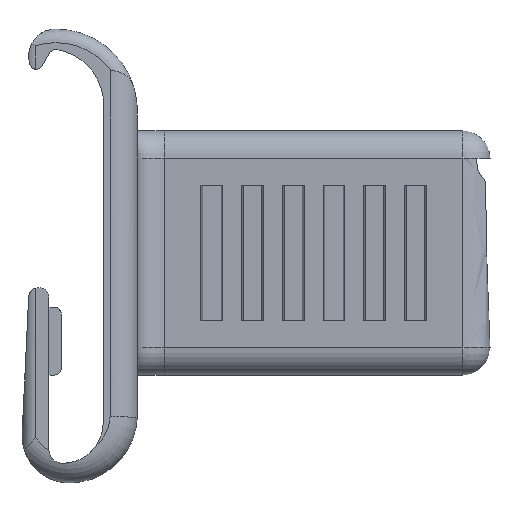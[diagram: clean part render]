
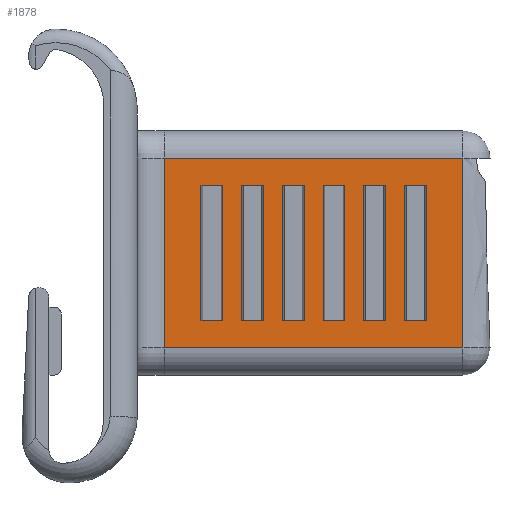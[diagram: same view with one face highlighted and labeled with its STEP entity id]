
A CAD part, left-side view. The second image highlights one B-rep face of the part: STEP entity #1878.
In plain terms, the highlighted planar face has unit normal (-1, 0, 0).
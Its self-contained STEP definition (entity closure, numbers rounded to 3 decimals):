
#1072=CARTESIAN_POINT('',(340.48,195.265,-2.0));
#1073=VERTEX_POINT('',#1072);
#1125=CARTESIAN_POINT('',(340.48,195.265,12.));
#1126=VERTEX_POINT('',#1125);
#1134=CARTESIAN_POINT('',(340.48,195.265,12.));
#1135=DIRECTION('',(0.0,0.0,-1.0));
#1136=VECTOR('',#1135,14.);
#1137=LINE('',#1134,#1136);
#1138=EDGE_CURVE('',#1126,#1073,#1137,.T.);
#1409=CARTESIAN_POINT('',(340.48,217.261,-2.0));
#1410=VERTEX_POINT('',#1409);
#1411=CARTESIAN_POINT('',(340.48,195.265,-2.0));
#1412=DIRECTION('',(0.0,1.0,0.0));
#1413=VECTOR('',#1412,21.996);
#1414=LINE('',#1411,#1413);
#1415=EDGE_CURVE('',#1073,#1410,#1414,.T.);
#1632=CARTESIAN_POINT('',(340.48,217.261,12.));
#1633=VERTEX_POINT('',#1632);
#1634=CARTESIAN_POINT('',(340.48,217.261,-2.0));
#1635=DIRECTION('',(0.0,0.0,1.0));
#1636=VECTOR('',#1635,14.);
#1637=LINE('',#1634,#1636);
#1638=EDGE_CURVE('',#1410,#1633,#1637,.T.);
#1658=CARTESIAN_POINT('',(340.48,214.565,0.0));
#1659=DIRECTION('',(-1.0,0.0,0.0));
#1660=DIRECTION('',(0.0,0.0,1.0));
#1661=AXIS2_PLACEMENT_3D('',#1658,#1659,#1660);
#1662=PLANE('',#1661);
#1663=ORIENTED_EDGE('',*,*,#1138,.F.);
#1664=CARTESIAN_POINT('',(340.48,217.261,12.));
#1665=DIRECTION('',(0.0,-1.0,0.0));
#1666=VECTOR('',#1665,21.996);
#1667=LINE('',#1664,#1666);
#1668=EDGE_CURVE('',#1633,#1126,#1667,.T.);
#1669=ORIENTED_EDGE('',*,*,#1668,.F.);
#1670=ORIENTED_EDGE('',*,*,#1638,.F.);
#1671=ORIENTED_EDGE('',*,*,#1415,.F.);
#1672=EDGE_LOOP('',(#1663,#1669,#1670,#1671));
#1673=FACE_OUTER_BOUND('',#1672,.T.);
#1674=CARTESIAN_POINT('',(340.48,214.565,0.0));
#1675=VERTEX_POINT('',#1674);
#1676=CARTESIAN_POINT('',(340.48,214.565,10.0));
#1677=VERTEX_POINT('',#1676);
#1678=CARTESIAN_POINT('',(340.48,214.565,0.0));
#1679=DIRECTION('',(0.0,0.0,1.0));
#1680=VECTOR('',#1679,10.0);
#1681=LINE('',#1678,#1680);
#1682=EDGE_CURVE('',#1675,#1677,#1681,.T.);
#1683=ORIENTED_EDGE('',*,*,#1682,.T.);
#1684=CARTESIAN_POINT('',(340.48,212.965,10.0));
#1685=VERTEX_POINT('',#1684);
#1686=CARTESIAN_POINT('',(340.48,214.565,10.0));
#1687=DIRECTION('',(0.0,-1.0,0.0));
#1688=VECTOR('',#1687,1.6);
#1689=LINE('',#1686,#1688);
#1690=EDGE_CURVE('',#1677,#1685,#1689,.T.);
#1691=ORIENTED_EDGE('',*,*,#1690,.T.);
#1692=CARTESIAN_POINT('',(340.48,212.965,0.0));
#1693=VERTEX_POINT('',#1692);
#1694=CARTESIAN_POINT('',(340.48,212.965,0.0));
#1695=DIRECTION('',(0.0,0.0,1.0));
#1696=VECTOR('',#1695,10.0);
#1697=LINE('',#1694,#1696);
#1698=EDGE_CURVE('',#1693,#1685,#1697,.T.);
#1699=ORIENTED_EDGE('',*,*,#1698,.F.);
#1700=CARTESIAN_POINT('',(340.48,212.965,0.0));
#1701=DIRECTION('',(0.0,1.0,0.0));
#1702=VECTOR('',#1701,1.6);
#1703=LINE('',#1700,#1702);
#1704=EDGE_CURVE('',#1693,#1675,#1703,.T.);
#1705=ORIENTED_EDGE('',*,*,#1704,.T.);
#1706=EDGE_LOOP('',(#1683,#1691,#1699,#1705));
#1707=FACE_BOUND('',#1706,.T.);
#1708=CARTESIAN_POINT('',(340.48,211.565,0.0));
#1709=VERTEX_POINT('',#1708);
#1710=CARTESIAN_POINT('',(340.48,211.565,10.0));
#1711=VERTEX_POINT('',#1710);
#1712=CARTESIAN_POINT('',(340.48,211.565,0.0));
#1713=DIRECTION('',(0.0,0.0,1.0));
#1714=VECTOR('',#1713,10.0);
#1715=LINE('',#1712,#1714);
#1716=EDGE_CURVE('',#1709,#1711,#1715,.T.);
#1717=ORIENTED_EDGE('',*,*,#1716,.T.);
#1718=CARTESIAN_POINT('',(340.48,209.965,10.0));
#1719=VERTEX_POINT('',#1718);
#1720=CARTESIAN_POINT('',(340.48,211.565,10.0));
#1721=DIRECTION('',(0.0,-1.0,0.0));
#1722=VECTOR('',#1721,1.6);
#1723=LINE('',#1720,#1722);
#1724=EDGE_CURVE('',#1711,#1719,#1723,.T.);
#1725=ORIENTED_EDGE('',*,*,#1724,.T.);
#1726=CARTESIAN_POINT('',(340.48,209.965,0.0));
#1727=VERTEX_POINT('',#1726);
#1728=CARTESIAN_POINT('',(340.48,209.965,0.0));
#1729=DIRECTION('',(0.0,0.0,1.0));
#1730=VECTOR('',#1729,10.0);
#1731=LINE('',#1728,#1730);
#1732=EDGE_CURVE('',#1727,#1719,#1731,.T.);
#1733=ORIENTED_EDGE('',*,*,#1732,.F.);
#1734=CARTESIAN_POINT('',(340.48,209.965,0.0));
#1735=DIRECTION('',(0.0,1.0,0.0));
#1736=VECTOR('',#1735,1.6);
#1737=LINE('',#1734,#1736);
#1738=EDGE_CURVE('',#1727,#1709,#1737,.T.);
#1739=ORIENTED_EDGE('',*,*,#1738,.T.);
#1740=EDGE_LOOP('',(#1717,#1725,#1733,#1739));
#1741=FACE_BOUND('',#1740,.T.);
#1742=CARTESIAN_POINT('',(340.48,208.565,0.0));
#1743=VERTEX_POINT('',#1742);
#1744=CARTESIAN_POINT('',(340.48,208.565,10.0));
#1745=VERTEX_POINT('',#1744);
#1746=CARTESIAN_POINT('',(340.48,208.565,0.0));
#1747=DIRECTION('',(0.0,0.0,1.0));
#1748=VECTOR('',#1747,10.0);
#1749=LINE('',#1746,#1748);
#1750=EDGE_CURVE('',#1743,#1745,#1749,.T.);
#1751=ORIENTED_EDGE('',*,*,#1750,.T.);
#1752=CARTESIAN_POINT('',(340.48,206.965,10.0));
#1753=VERTEX_POINT('',#1752);
#1754=CARTESIAN_POINT('',(340.48,208.565,10.0));
#1755=DIRECTION('',(0.0,-1.0,0.0));
#1756=VECTOR('',#1755,1.6);
#1757=LINE('',#1754,#1756);
#1758=EDGE_CURVE('',#1745,#1753,#1757,.T.);
#1759=ORIENTED_EDGE('',*,*,#1758,.T.);
#1760=CARTESIAN_POINT('',(340.48,206.965,0.0));
#1761=VERTEX_POINT('',#1760);
#1762=CARTESIAN_POINT('',(340.48,206.965,0.0));
#1763=DIRECTION('',(0.0,0.0,1.0));
#1764=VECTOR('',#1763,10.0);
#1765=LINE('',#1762,#1764);
#1766=EDGE_CURVE('',#1761,#1753,#1765,.T.);
#1767=ORIENTED_EDGE('',*,*,#1766,.F.);
#1768=CARTESIAN_POINT('',(340.48,206.965,0.0));
#1769=DIRECTION('',(0.0,1.0,0.0));
#1770=VECTOR('',#1769,1.6);
#1771=LINE('',#1768,#1770);
#1772=EDGE_CURVE('',#1761,#1743,#1771,.T.);
#1773=ORIENTED_EDGE('',*,*,#1772,.T.);
#1774=EDGE_LOOP('',(#1751,#1759,#1767,#1773));
#1775=FACE_BOUND('',#1774,.T.);
#1776=CARTESIAN_POINT('',(340.48,205.565,0.0));
#1777=VERTEX_POINT('',#1776);
#1778=CARTESIAN_POINT('',(340.48,205.565,10.0));
#1779=VERTEX_POINT('',#1778);
#1780=CARTESIAN_POINT('',(340.48,205.565,0.0));
#1781=DIRECTION('',(0.0,0.0,1.0));
#1782=VECTOR('',#1781,10.0);
#1783=LINE('',#1780,#1782);
#1784=EDGE_CURVE('',#1777,#1779,#1783,.T.);
#1785=ORIENTED_EDGE('',*,*,#1784,.T.);
#1786=CARTESIAN_POINT('',(340.48,203.965,10.0));
#1787=VERTEX_POINT('',#1786);
#1788=CARTESIAN_POINT('',(340.48,205.565,10.0));
#1789=DIRECTION('',(0.0,-1.0,0.0));
#1790=VECTOR('',#1789,1.6);
#1791=LINE('',#1788,#1790);
#1792=EDGE_CURVE('',#1779,#1787,#1791,.T.);
#1793=ORIENTED_EDGE('',*,*,#1792,.T.);
#1794=CARTESIAN_POINT('',(340.48,203.965,0.0));
#1795=VERTEX_POINT('',#1794);
#1796=CARTESIAN_POINT('',(340.48,203.965,0.0));
#1797=DIRECTION('',(0.0,0.0,1.0));
#1798=VECTOR('',#1797,10.0);
#1799=LINE('',#1796,#1798);
#1800=EDGE_CURVE('',#1795,#1787,#1799,.T.);
#1801=ORIENTED_EDGE('',*,*,#1800,.F.);
#1802=CARTESIAN_POINT('',(340.48,203.965,0.0));
#1803=DIRECTION('',(0.0,1.0,0.0));
#1804=VECTOR('',#1803,1.6);
#1805=LINE('',#1802,#1804);
#1806=EDGE_CURVE('',#1795,#1777,#1805,.T.);
#1807=ORIENTED_EDGE('',*,*,#1806,.T.);
#1808=EDGE_LOOP('',(#1785,#1793,#1801,#1807));
#1809=FACE_BOUND('',#1808,.T.);
#1810=CARTESIAN_POINT('',(340.48,197.965,0.0));
#1811=VERTEX_POINT('',#1810);
#1812=CARTESIAN_POINT('',(340.48,199.565,0.0));
#1813=VERTEX_POINT('',#1812);
#1814=CARTESIAN_POINT('',(340.48,197.965,0.0));
#1815=DIRECTION('',(0.0,1.0,0.0));
#1816=VECTOR('',#1815,1.6);
#1817=LINE('',#1814,#1816);
#1818=EDGE_CURVE('',#1811,#1813,#1817,.T.);
#1819=ORIENTED_EDGE('',*,*,#1818,.T.);
#1820=CARTESIAN_POINT('',(340.48,199.565,10.0));
#1821=VERTEX_POINT('',#1820);
#1822=CARTESIAN_POINT('',(340.48,199.565,0.0));
#1823=DIRECTION('',(0.0,0.0,1.0));
#1824=VECTOR('',#1823,10.0);
#1825=LINE('',#1822,#1824);
#1826=EDGE_CURVE('',#1813,#1821,#1825,.T.);
#1827=ORIENTED_EDGE('',*,*,#1826,.T.);
#1828=CARTESIAN_POINT('',(340.48,197.965,10.0));
#1829=VERTEX_POINT('',#1828);
#1830=CARTESIAN_POINT('',(340.48,199.565,10.0));
#1831=DIRECTION('',(0.0,-1.0,0.0));
#1832=VECTOR('',#1831,1.6);
#1833=LINE('',#1830,#1832);
#1834=EDGE_CURVE('',#1821,#1829,#1833,.T.);
#1835=ORIENTED_EDGE('',*,*,#1834,.T.);
#1836=CARTESIAN_POINT('',(340.48,197.965,0.0));
#1837=DIRECTION('',(0.0,0.0,1.0));
#1838=VECTOR('',#1837,10.0);
#1839=LINE('',#1836,#1838);
#1840=EDGE_CURVE('',#1811,#1829,#1839,.T.);
#1841=ORIENTED_EDGE('',*,*,#1840,.F.);
#1842=EDGE_LOOP('',(#1819,#1827,#1835,#1841));
#1843=FACE_BOUND('',#1842,.T.);
#1844=CARTESIAN_POINT('',(340.48,200.965,0.0));
#1845=VERTEX_POINT('',#1844);
#1846=CARTESIAN_POINT('',(340.48,202.565,0.0));
#1847=VERTEX_POINT('',#1846);
#1848=CARTESIAN_POINT('',(340.48,200.965,0.0));
#1849=DIRECTION('',(0.0,1.0,0.0));
#1850=VECTOR('',#1849,1.6);
#1851=LINE('',#1848,#1850);
#1852=EDGE_CURVE('',#1845,#1847,#1851,.T.);
#1853=ORIENTED_EDGE('',*,*,#1852,.T.);
#1854=CARTESIAN_POINT('',(340.48,202.565,10.0));
#1855=VERTEX_POINT('',#1854);
#1856=CARTESIAN_POINT('',(340.48,202.565,0.0));
#1857=DIRECTION('',(0.0,0.0,1.0));
#1858=VECTOR('',#1857,10.0);
#1859=LINE('',#1856,#1858);
#1860=EDGE_CURVE('',#1847,#1855,#1859,.T.);
#1861=ORIENTED_EDGE('',*,*,#1860,.T.);
#1862=CARTESIAN_POINT('',(340.48,200.965,10.0));
#1863=VERTEX_POINT('',#1862);
#1864=CARTESIAN_POINT('',(340.48,202.565,10.0));
#1865=DIRECTION('',(0.0,-1.0,0.0));
#1866=VECTOR('',#1865,1.6);
#1867=LINE('',#1864,#1866);
#1868=EDGE_CURVE('',#1855,#1863,#1867,.T.);
#1869=ORIENTED_EDGE('',*,*,#1868,.T.);
#1870=CARTESIAN_POINT('',(340.48,200.965,0.0));
#1871=DIRECTION('',(0.0,0.0,1.0));
#1872=VECTOR('',#1871,10.0);
#1873=LINE('',#1870,#1872);
#1874=EDGE_CURVE('',#1845,#1863,#1873,.T.);
#1875=ORIENTED_EDGE('',*,*,#1874,.F.);
#1876=EDGE_LOOP('',(#1853,#1861,#1869,#1875));
#1877=FACE_BOUND('',#1876,.T.);
#1878=ADVANCED_FACE('',(#1673,#1707,#1741,#1775,#1809,#1843,#1877),#1662,.T.);
